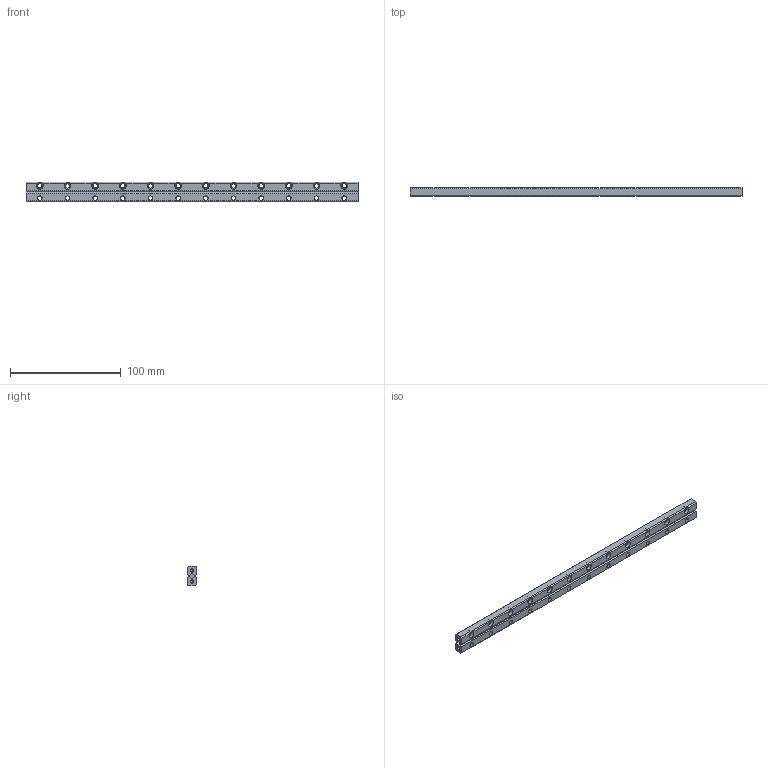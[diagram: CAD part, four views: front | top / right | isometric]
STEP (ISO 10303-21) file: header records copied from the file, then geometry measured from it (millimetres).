
FILE_DESCRIPTION((''),'2;1');
FILE_NAME('D:\製品 (図面)\カタログ用3D\リニアガイド関連\STEP形式\ACS3\ACS3300.stp','2010-07-29T15:36:37',('Tsuchiya'),(''),'Autodesk Inventor 10','Autodesk Inventor 10','');
FILE_SCHEMA(('AUTOMOTIVE_DESIGN { 1 0 10303 214 1 1 1 1 }'));
Length unit declared in the file: millimetre
Products named in the file (4): ACS3300; ACS33001; ACS33002; ACS33003
Assembly tree (3 placements, depth 2):
  ACS3300
    ACS33001
    ACS33002
    ACS33003
Bounding box: 300 x 8 x 18 mm (x, y, z)
Volume: 35877.2 mm3; surface area: 26650.5 mm2
Topology: 3 solids, 3 shells, 134 faces, 370 edges, 246 vertices
Faces by surface type: bspline 76, plane 52, cylinder 4, cone 2
Full cylindrical faces by diameter (mm): 3 x2
Entity records: 4635 total; most frequent: CARTESIAN_POINT 1597, ORIENTED_EDGE 568, DIRECTION 546, EDGE_CURVE 284, EDGE_LOOP 242, VERTEX_POINT 216, AXIS2_PLACEMENT_3D 197, VECTOR 152
